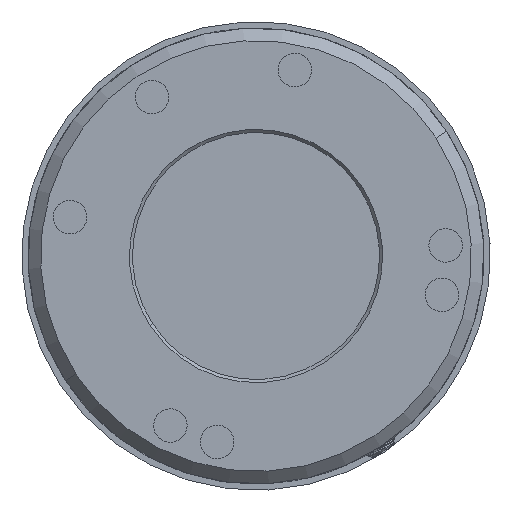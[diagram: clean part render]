
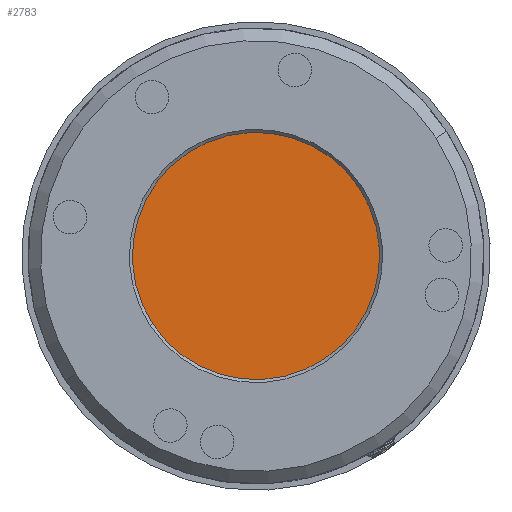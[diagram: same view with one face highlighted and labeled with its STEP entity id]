
A CAD part, front view. The second image highlights one B-rep face of the part: STEP entity #2783.
In plain terms, the highlighted planar face has unit normal (0, -1, 0).
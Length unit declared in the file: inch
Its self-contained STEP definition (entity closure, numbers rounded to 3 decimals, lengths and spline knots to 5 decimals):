
#10 = EDGE_CURVE ( 'NONE', #2697, #386, #2550, .T. ) ;
#23 = AXIS2_PLACEMENT_3D ( 'NONE', #1984, #573, #2218 ) ;
#362 = CARTESIAN_POINT ( 'NONE',  ( 0.5104, -0.245, 0.33406 ) ) ;
#386 = VERTEX_POINT ( 'NONE', #362 ) ;
#491 = AXIS2_PLACEMENT_3D ( 'NONE', #849, #842, #2922 ) ;
#573 = DIRECTION ( 'NONE',  ( 0., 1., 0. ) ) ;
#575 = ORIENTED_EDGE ( 'NONE', *, *, #10, .F. ) ;
#714 = EDGE_LOOP ( 'NONE', ( #1125, #575 ) ) ;
#749 = AXIS2_PLACEMENT_3D ( 'NONE', #2777, #1610, #1397 ) ;
#842 = DIRECTION ( 'NONE',  ( 0., 1., 0. ) ) ;
#849 = CARTESIAN_POINT ( 'NONE',  ( 0., -0.245, 0. ) ) ;
#1125 = ORIENTED_EDGE ( 'NONE', *, *, #1716, .F. ) ;
#1265 = CIRCLE ( 'NONE', #749, 0.61 ) ;
#1397 = DIRECTION ( 'NONE',  ( -0.837, 0., -0.548 ) ) ;
#1520 = FACE_OUTER_BOUND ( 'NONE', #714, .T. ) ;
#1610 = DIRECTION ( 'NONE',  ( 0., 1., 0. ) ) ;
#1716 = EDGE_CURVE ( 'NONE', #386, #2697, #1265, .T. ) ;
#1984 = CARTESIAN_POINT ( 'NONE',  ( 0., -0.245, 0. ) ) ;
#2218 = DIRECTION ( 'NONE',  ( 0., 0., 1. ) ) ;
#2254 = PLANE ( 'NONE',  #23 ) ;
#2390 = CARTESIAN_POINT ( 'NONE',  ( -0.5104, -0.245, -0.33406 ) ) ;
#2550 = CIRCLE ( 'NONE', #491, 0.61 ) ;
#2697 = VERTEX_POINT ( 'NONE', #2390 ) ;
#2777 = CARTESIAN_POINT ( 'NONE',  ( 0., -0.245, 0. ) ) ;
#2783 = ADVANCED_FACE ( 'NONE', ( #1520 ), #2254, .F. ) ;
#2922 = DIRECTION ( 'NONE',  ( -0.837, 0., -0.548 ) ) ;
